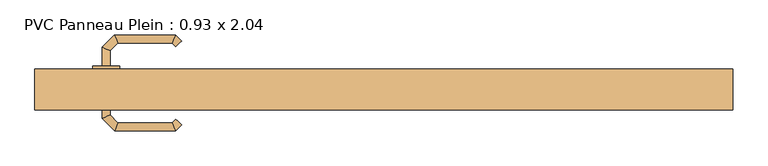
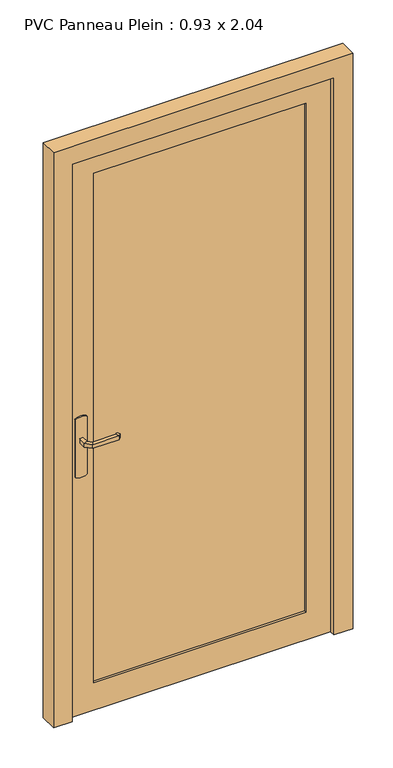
"""IFC4 building model written with IfcOpenShell, lengths in millimetres: door geometry, PVC Panneau Plein : 0.93 x 2.04."""

from ifc_helpers import new_model, si_unit, point, frame, frame_2d, origin, place, context, project, spatial, polyline, circle_curve, ellipse_curve, trimmed, segment, composite_curve, outline, extrude, faceted_brep, source, transform, mapped, element, save
from ifc_brep_helpers import plane_surface, cylinder_surface, advanced_brep


def pvc_panneau_plein_0_93_x_2_04_515509ed(model_context):
    return source(origin(), model_context, "Body", "SolidModel", [
        advanced_brep(
        [(-404.0, 118.7935702, 993.0), (-416.0, 118.7935702, 993.0), (-416.0, 118.7935702, 1007.0), (-404.0, 118.7935702, 1007.0), (-404.0, 96.3083657, 1007.0), (-404.0, 96.3083657, 993.0), (-416.0, 91.337803, 1007.0), (-416.0, 91.337803, 993.0), (-392.5147186, 84.8230843, 1007.0), (-392.5147186, 84.8230843, 993.0), (-397.4852814, 72.8230843, 1007.0), (-397.4852814, 72.8230843, 993.0), (-312.4394977, 84.8230843, 1007.0), (-312.4394977, 84.8230843, 993.0), (-307.468935, 72.8230843, 1007.0), (-307.468935, 72.8230843, 993.0), (-307.1257892, 90.1367928, 993.0), (-307.1257892, 90.1367928, 1007.0), (-298.6405078, 81.6515115, 1007.0), (-298.6405078, 81.6515115, 993.0)],
        [
            (0, 1, circle_curve(frame((-410.0, 118.7935702, 1013.0457722), z_axis=(0.0, 1.0, 0.0), x_axis=(-1.0, 0.0, 0.0)), 20.9244589)),
            (1, 2),
            (2, 3, circle_curve(frame((-410.0, 118.7935702, 986.9542278), z_axis=(0.0, 1.0, 0.0), x_axis=(-1.0, 0.0, 0.0)), 20.9244589)),
            (3, 0),
            (3, 4),
            (4, 5),
            (5, 0),
            (2, 6),
            (6, 4, ellipse_curve(frame((-410.0, 93.8230843, 986.9542278), z_axis=(-0.38268343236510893, 0.9238795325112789, 0.0), x_axis=(0.9238795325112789, 0.3826834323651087, 0.0)), 22.6484711, 20.9244589)),
            (1, 7),
            (7, 6),
            (5, 7, ellipse_curve(frame((-410.0, 93.8230843, 1013.0457722), z_axis=(-0.38268343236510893, 0.9238795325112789, 0.0), x_axis=(0.9238795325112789, 0.3826834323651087, 0.0)), 22.6484711, 20.9244589)),
            (4, 8),
            (8, 9),
            (9, 5),
            (6, 10),
            (10, 8, ellipse_curve(frame((-395.0, 78.8230843, 986.9542278), z_axis=(-0.9238795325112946, 0.38268343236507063, 0.0), x_axis=(0.3826834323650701, 0.9238795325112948, 0.0)), 22.6484711, 20.9244589)),
            (7, 11),
            (11, 10),
            (9, 11, ellipse_curve(frame((-395.0, 78.8230843, 1013.0457722), z_axis=(-0.9238795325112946, 0.38268343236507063, 0.0), x_axis=(0.3826834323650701, 0.9238795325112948, 0.0)), 22.6484711, 20.9244589)),
            (8, 12),
            (12, 13),
            (13, 9),
            (10, 14),
            (14, 12, ellipse_curve(frame((-309.9542163, 78.8230843, 986.9542278), z_axis=(-0.9238795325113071, -0.38268343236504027, 0.0), x_axis=(-0.38268343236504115, 0.9238795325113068, 0.0)), 22.6484711, 20.9244589)),
            (11, 15),
            (15, 14),
            (13, 15, ellipse_curve(frame((-309.9542163, 78.8230843, 1013.0457722), z_axis=(-0.9238795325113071, -0.38268343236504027, 0.0), x_axis=(-0.38268343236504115, 0.9238795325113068, 0.0)), 22.6484711, 20.9244589)),
            (16, 17),
            (17, 18, circle_curve(frame((-302.8831485, 85.8941521, 986.9542278), z_axis=(0.7071067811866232, 0.7071067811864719, 0.0), x_axis=(0.7071067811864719, -0.7071067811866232, 0.0)), 20.9244589)),
            (18, 19),
            (19, 16, circle_curve(frame((-302.8831485, 85.8941521, 1013.0457722), z_axis=(0.7071067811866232, 0.7071067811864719, 0.0), x_axis=(0.7071067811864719, -0.7071067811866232, 0.0)), 20.9244589)),
            (12, 17),
            (16, 13),
            (14, 18),
            (15, 19),
        ],
        [
            plane_surface(frame((-419.2195445, 118.7935702, 1000.0), z_axis=(0.0, 1.0, 0.0), x_axis=(0.0, 0.0, 1.0))),
            plane_surface(frame((-404.0, 118.7935702, 993.0), z_axis=(1.0, 0.0, 0.0), x_axis=(0.0, -1.0, 0.0))),
            cylinder_surface(frame((-410.0, 118.7935702, 986.9542278), z_axis=(0.0, 1.0, 0.0), x_axis=(-1.0, 0.0, 0.0)), 20.9244589),
            plane_surface(frame((-416.0, 118.7935702, 1007.0), z_axis=(-1.0, 0.0, 0.0), x_axis=(0.0, -1.0, 0.0))),
            cylinder_surface(frame((-410.0, 118.7935702, 1013.0457722), z_axis=(0.0, 1.0, 0.0), x_axis=(-1.0, 0.0, 0.0)), 20.9244589),
            plane_surface(frame((-404.0, 96.3083657, 993.0), z_axis=(0.707106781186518, 0.707106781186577, 0.0), x_axis=(0.707106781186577, -0.707106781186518, 0.0))),
            cylinder_surface(frame((-410.0, 93.8230843, 986.9542278), z_axis=(-0.7071067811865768, 0.7071067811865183, 0.0), x_axis=(-0.7071067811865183, -0.7071067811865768, 0.0)), 20.9244589),
            plane_surface(frame((-416.0, 91.337803, 1007.0), z_axis=(-0.7071067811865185, -0.7071067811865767, 0.0), x_axis=(0.7071067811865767, -0.7071067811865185, 0.0))),
            cylinder_surface(frame((-410.0, 93.8230843, 1013.0457722), z_axis=(-0.7071067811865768, 0.7071067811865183, 0.0), x_axis=(-0.7071067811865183, -0.7071067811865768, 0.0)), 20.9244589),
            plane_surface(frame((-392.5147186, 84.8230843, 993.0), z_axis=(0.0, 1.0, 0.0), x_axis=(1.0, 0.0, 0.0))),
            cylinder_surface(frame((-395.0, 78.8230843, 986.9542278), z_axis=(-1.0, 0.0, 0.0), x_axis=(0.0, -1.0, 0.0)), 20.9244589),
            plane_surface(frame((-397.4852814, 72.8230843, 1007.0), z_axis=(0.0, -1.0, 0.0), x_axis=(1.0, 0.0, 0.0))),
            cylinder_surface(frame((-395.0, 78.8230843, 1013.0457722), z_axis=(-1.0, 0.0, 0.0), x_axis=(0.0, -1.0, 0.0)), 20.9244589),
            plane_surface(frame((-302.8831485, 85.8941521, 990.7804555), z_axis=(0.7071067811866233, 0.7071067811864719, 0.0), x_axis=(0.7071067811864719, -0.7071067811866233, 0.0))),
            plane_surface(frame((-312.4394977, 84.8230843, 993.0), z_axis=(-0.707106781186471, 0.7071067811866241, 0.0), x_axis=(0.7071067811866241, 0.707106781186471, 0.0))),
            cylinder_surface(frame((-309.9542163, 78.8230843, 986.9542278), z_axis=(-0.7071067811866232, -0.7071067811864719, 0.0), x_axis=(0.7071067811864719, -0.7071067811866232, 0.0)), 20.9244589),
            plane_surface(frame((-307.468935, 72.8230843, 1007.0), z_axis=(0.7071067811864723, -0.7071067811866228, 0.0), x_axis=(0.7071067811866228, 0.7071067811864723, 0.0))),
            cylinder_surface(frame((-309.9542163, 78.8230843, 1013.0457722), z_axis=(-0.7071067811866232, -0.7071067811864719, 0.0), x_axis=(0.7071067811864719, -0.7071067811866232, 0.0)), 20.9244589),
        ],
        [
            (0, [[1, 2, 3, 4]]),
            (1, [[5, 6, 7, -4]]),
            (2, [[8, 9, -5, -3]]),
            (3, [[10, 11, -8, -2]]),
            (4, [[-7, 12, -10, -1]]),
            (5, [[13, 14, 15, -6]]),
            (6, [[16, 17, -13, -9]]),
            (7, [[18, 19, -16, -11]]),
            (8, [[-15, 20, -18, -12]]),
            (9, [[21, 22, 23, -14]]),
            (10, [[24, 25, -21, -17]]),
            (11, [[26, 27, -24, -19]]),
            (12, [[-23, 28, -26, -20]]),
            (13, [[29, 30, 31, 32]]),
            (14, [[33, -29, 34, -22]]),
            (15, [[35, -30, -33, -25]]),
            (16, [[36, -31, -35, -27]]),
            (17, [[-34, -32, -36, -28]]),
        ],
    ),
        advanced_brep(
        [(-416.0, 168.7935702, 1007.0), (-416.0, 168.7935702, 993.0), (-404.0, 168.7935702, 993.0), (-404.0, 168.7935702, 1007.0), (-404.0, 191.4739582, 1007.0), (-416.0, 196.4445209, 1007.0), (-404.0, 191.4739582, 993.0), (-416.0, 196.4445209, 993.0), (-392.6522273, 202.8217309, 1007.0), (-397.62279, 214.8217309, 1007.0), (-392.6522273, 202.8217309, 993.0), (-397.62279, 214.8217309, 993.0), (-312.4666408, 202.8217309, 1007.0), (-307.496078, 214.8217309, 1007.0), (-312.4666408, 202.8217309, 993.0), (-307.496078, 214.8217309, 993.0), (-298.6676509, 205.9933038, 1007.0), (-307.1529323, 197.5080224, 1007.0), (-307.1529323, 197.5080224, 993.0), (-298.6676509, 205.9933038, 993.0)],
        [
            (0, 1),
            (1, 2, circle_curve(frame((-410.0, 168.7935702, 1013.0457722), z_axis=(0.0, -1.0, 0.0), x_axis=(1.0, 0.0, 0.0)), 20.9244589)),
            (2, 3),
            (3, 0, circle_curve(frame((-410.0, 168.7935702, 986.9542278), z_axis=(0.0, -1.0, 0.0), x_axis=(1.0, 0.0, 0.0)), 20.9244589)),
            (3, 4),
            (4, 5, ellipse_curve(frame((-410.0, 193.9592395, 986.9542278), z_axis=(-0.3826834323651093, -0.9238795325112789, 0.0), x_axis=(0.9238795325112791, -0.38268343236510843, 0.0)), 22.6484711, 20.9244589)),
            (5, 0),
            (2, 6),
            (6, 4),
            (1, 7),
            (7, 6, ellipse_curve(frame((-410.0, 193.9592395, 1013.0457722), z_axis=(-0.3826834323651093, -0.9238795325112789, 0.0), x_axis=(0.9238795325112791, -0.38268343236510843, 0.0)), 22.6484711, 20.9244589)),
            (5, 7),
            (4, 8),
            (8, 9, ellipse_curve(frame((-395.1375086, 208.8217309, 986.9542278), z_axis=(-0.9238795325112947, -0.38268343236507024, 0.0), x_axis=(0.3826834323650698, -0.9238795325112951, 0.0)), 22.6484711, 20.9244589)),
            (9, 5),
            (6, 10),
            (10, 8),
            (7, 11),
            (11, 10, ellipse_curve(frame((-395.1375086, 208.8217309, 1013.0457722), z_axis=(-0.9238795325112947, -0.38268343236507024, 0.0), x_axis=(0.3826834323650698, -0.9238795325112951, 0.0)), 22.6484711, 20.9244589)),
            (9, 11),
            (8, 12),
            (12, 13, ellipse_curve(frame((-309.9813594, 208.8217309, 986.9542278), z_axis=(-0.9238795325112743, 0.3826834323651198, 0.0), x_axis=(-0.38268343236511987, -0.9238795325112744, 0.0)), 22.6484711, 20.9244589)),
            (13, 9),
            (10, 14),
            (14, 12),
            (11, 15),
            (15, 14, ellipse_curve(frame((-309.9813594, 208.8217309, 1013.0457722), z_axis=(-0.9238795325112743, 0.3826834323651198, 0.0), x_axis=(-0.38268343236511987, -0.9238795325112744, 0.0)), 22.6484711, 20.9244589)),
            (13, 15),
            (16, 17, circle_curve(frame((-302.9102916, 201.7506631, 986.9542278), z_axis=(0.7071067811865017, -0.7071067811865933, 0.0), x_axis=(-0.7071067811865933, -0.7071067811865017, 0.0)), 20.9244589)),
            (17, 18),
            (18, 19, circle_curve(frame((-302.9102916, 201.7506631, 1013.0457722), z_axis=(0.7071067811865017, -0.7071067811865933, 0.0), x_axis=(-0.7071067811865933, -0.7071067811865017, 0.0)), 20.9244589)),
            (19, 16),
            (12, 17),
            (16, 13),
            (14, 18),
            (15, 19),
        ],
        [
            plane_surface(frame((-419.2195445, 168.7935702, 1000.0), z_axis=(0.0, -1.0, 0.0), x_axis=(0.0, 0.0, -1.0))),
            cylinder_surface(frame((-410.0, 168.7935702, 986.9542278), z_axis=(0.0, -1.0, 0.0), x_axis=(1.0, 0.0, 0.0)), 20.9244589),
            plane_surface(frame((-404.0, 168.7935702, 1007.0), z_axis=(1.0, 0.0, 0.0), x_axis=(0.0, 1.0, 0.0))),
            cylinder_surface(frame((-410.0, 168.7935702, 1013.0457722), z_axis=(0.0, -1.0, 0.0), x_axis=(1.0, 0.0, 0.0)), 20.9244589),
            plane_surface(frame((-416.0, 168.7935702, 993.0), z_axis=(-1.0, 0.0, 0.0), x_axis=(0.0, 1.0, 0.0))),
            cylinder_surface(frame((-410.0, 193.9592395, 986.9542278), z_axis=(-0.7071067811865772, -0.7071067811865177, 0.0), x_axis=(0.7071067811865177, -0.7071067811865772, 0.0)), 20.9244589),
            plane_surface(frame((-404.0, 191.4739582, 1007.0), z_axis=(0.7071067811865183, -0.7071067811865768, 0.0), x_axis=(0.7071067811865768, 0.7071067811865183, 0.0))),
            cylinder_surface(frame((-410.0, 193.9592395, 1013.0457722), z_axis=(-0.7071067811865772, -0.7071067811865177, 0.0), x_axis=(0.7071067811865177, -0.7071067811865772, 0.0)), 20.9244589),
            plane_surface(frame((-416.0, 196.4445209, 993.0), z_axis=(-0.707106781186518, 0.707106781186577, 0.0), x_axis=(0.707106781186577, 0.707106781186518, 0.0))),
            cylinder_surface(frame((-395.1375086, 208.8217309, 986.9542278), z_axis=(-1.0, 0.0, 0.0), x_axis=(0.0, -1.0, 0.0)), 20.9244589),
            plane_surface(frame((-392.6522273, 202.8217309, 1007.0), z_axis=(0.0, -1.0, 0.0), x_axis=(1.0, 0.0, 0.0))),
            cylinder_surface(frame((-395.1375086, 208.8217309, 1013.0457722), z_axis=(-1.0, 0.0, 0.0), x_axis=(0.0, -1.0, 0.0)), 20.9244589),
            plane_surface(frame((-397.62279, 214.8217309, 993.0), z_axis=(0.0, 1.0, 0.0), x_axis=(1.0, 0.0, 0.0))),
            plane_surface(frame((-302.9102916, 201.7506631, 1009.2195445), z_axis=(0.7071067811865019, -0.7071067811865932, 0.0), x_axis=(0.7071067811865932, 0.7071067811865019, 0.0))),
            cylinder_surface(frame((-309.9813594, 208.8217309, 986.9542278), z_axis=(-0.7071067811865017, 0.7071067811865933, 0.0), x_axis=(-0.7071067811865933, -0.7071067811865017, 0.0)), 20.9244589),
            plane_surface(frame((-312.4666408, 202.8217309, 1007.0), z_axis=(-0.7071067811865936, -0.7071067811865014, 0.0), x_axis=(0.7071067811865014, -0.7071067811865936, 0.0))),
            cylinder_surface(frame((-309.9813594, 208.8217309, 1013.0457722), z_axis=(-0.7071067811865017, 0.7071067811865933, 0.0), x_axis=(-0.7071067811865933, -0.7071067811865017, 0.0)), 20.9244589),
            plane_surface(frame((-307.496078, 214.8217309, 993.0), z_axis=(0.707106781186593, 0.7071067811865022, 0.0), x_axis=(0.7071067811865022, -0.707106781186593, 0.0))),
        ],
        [
            (0, [[1, 2, 3, 4]]),
            (1, [[5, 6, 7, -4]]),
            (2, [[8, 9, -5, -3]]),
            (3, [[10, 11, -8, -2]]),
            (4, [[-7, 12, -10, -1]]),
            (5, [[13, 14, 15, -6]]),
            (6, [[16, 17, -13, -9]]),
            (7, [[18, 19, -16, -11]]),
            (8, [[-15, 20, -18, -12]]),
            (9, [[21, 22, 23, -14]]),
            (10, [[24, 25, -21, -17]]),
            (11, [[26, 27, -24, -19]]),
            (12, [[-23, 28, -26, -20]]),
            (13, [[29, 30, 31, 32]]),
            (14, [[33, -29, 34, -22]]),
            (15, [[35, -30, -33, -25]]),
            (16, [[36, -31, -35, -27]]),
            (17, [[-34, -32, -36, -28]]),
        ],
    ),
        extrude(outline(composite_curve([segment(trimmed(circle_curve(frame_2d((1045.3589838, -410.0)), 40.0), [point((1080.0, -390.0))], [point((1080.0, -430.0))], False, "CARTESIAN"), True, "CONTINUOUS"), segment(polyline([(1080.0, -430.0), (870.0, -430.0)]), True, "CONTINUOUS"), segment(trimmed(circle_curve(frame_2d((904.6410162, -410.0)), 40.0), [point((870.0, -430.0))], [point((870.0, -390.0))], False, "CARTESIAN"), True, "CONTINUOUS"), segment(polyline([(870.0, -390.0), (1080.0, -390.0)]), True, "CONTINUOUS")], self_intersect=False)), frame((0.0, 118.7935702, 0.0), z_axis=(0.0, 1.0, 0.0), x_axis=(0.0, 0.0, 1.0)), (0.0, 0.0, 1.0), 5.0),
        extrude(outline(composite_curve([segment(trimmed(circle_curve(frame_2d((904.6410162, -410.0)), 40.0), [point((870.0, -430.0))], [point((870.0, -390.0))], False, "CARTESIAN"), True, "CONTINUOUS"), segment(polyline([(870.0, -390.0), (1080.0, -390.0)]), True, "CONTINUOUS"), segment(trimmed(circle_curve(frame_2d((1045.3589838, -410.0)), 40.0), [point((1080.0, -390.0))], [point((1080.0, -430.0))], False, "CARTESIAN"), True, "CONTINUOUS"), segment(polyline([(1080.0, -430.0), (870.0, -430.0)]), True, "CONTINUOUS")], self_intersect=False)), frame((0.0, 163.7935702, 0.0), z_axis=(0.0, 1.0, 0.0), x_axis=(0.0, 0.0, 1.0)), (0.0, 0.0, 1.0), 5.0),
        faceted_brep([(-515.0, 163.7935702, 0.0), (-465.0, 163.7935702, 0.0), (-465.0, 123.7935702, 0.0), (-450.0, 123.7935702, 0.0), (-450.0, 103.7935702, 0.0), (-515.0, 103.7935702, 0.0), (-515.0, 103.7935702, 2090.0), (-515.0, 163.7935702, 2090.0), (-450.0, 103.7935702, 2025.0), (450.0, 103.7935702, 2025.0), (450.0, 103.7935702, 0.0), (515.0, 103.7935702, 0.0), (515.0, 103.7935702, 2090.0), (-450.0, 123.7935702, 2025.0), (-465.0, 123.7935702, 2040.0), (465.0, 123.7935702, 2040.0), (465.0, 123.7935702, 0.0), (450.0, 123.7935702, 0.0), (450.0, 123.7935702, 2025.0), (-465.0, 163.7935702, 2040.0), (515.0, 163.7935702, 2090.0), (515.0, 163.7935702, 0.0), (465.0, 163.7935702, 0.0), (465.0, 163.7935702, 2040.0)], [[[0, 1, 2, 3, 4, 5]], [[5, 6, 7, 0]], [[4, 8, 9, 10, 11, 12, 6, 5]], [[3, 13, 8, 4]], [[2, 14, 15, 16, 17, 18, 13, 3]], [[1, 19, 14, 2]], [[0, 7, 20, 21, 22, 23, 19, 1]], [[11, 21, 20, 12]], [[10, 17, 16, 22, 21, 11]], [[9, 18, 17, 10]], [[15, 23, 22, 16]], [[6, 12, 20, 7]], [[8, 13, 18, 9]], [[14, 19, 23, 15]]]),
        faceted_brep([(-465.0, 163.7935702, 2040.0), (465.0, 163.7935702, 2040.0), (465.0, 163.7935702, 0.0), (-465.0, 163.7935702, 0.0), (365.0, 163.7935702, 1950.0), (-365.0, 163.7935702, 1950.0), (-365.0, 163.7935702, 100.0), (365.0, 163.7935702, 100.0), (-465.0, 123.7935702, 2040.0), (-465.0, 123.7935702, 0.0), (465.0, 123.7935702, 0.0), (465.0, 123.7935702, 2040.0), (-365.0, 123.7935702, 1950.0), (365.0, 123.7935702, 1950.0), (365.0, 123.7935702, 100.0), (-365.0, 123.7935702, 100.0), (365.0, 155.7935702, 1950.0), (365.0, 155.7935702, 100.0), (-365.0, 155.7935702, 100.0), (-365.0, 155.7935702, 1950.0), (-365.0, 131.7935702, 1950.0), (-365.0, 131.7935702, 100.0), (365.0, 131.7935702, 100.0), (365.0, 131.7935702, 1950.0)], [[[0, 1, 2, 3], [4, 5, 6, 7]], [[8, 9, 10, 11], [12, 13, 14, 15]], [[3, 9, 8, 0]], [[2, 10, 9, 3]], [[1, 11, 10, 2]], [[0, 8, 11, 1]], [[16, 17, 18, 19]], [[16, 4, 7, 17]], [[17, 7, 6, 18]], [[18, 6, 5, 19]], [[19, 5, 4, 16]], [[20, 21, 22, 23]], [[20, 12, 15, 21]], [[21, 15, 14, 22]], [[22, 14, 13, 23]], [[23, 13, 12, 20]]]),
    ])


if __name__ == "__main__":
    model = new_model("IFC4")
    model_context = context("Model", 3, world=origin())
    ifc_project = project(units=[si_unit("LENGTHUNIT", "METRE", prefix="MILLI")], contexts=[model_context])
    site = spatial("IfcSite", under=ifc_project)
    building = spatial("IfcBuilding", under=site)
    placement = place(None, origin())
    pvc_panneau_plein_0_93_x_2_04_shape = pvc_panneau_plein_0_93_x_2_04_515509ed(model_context)
    element("IfcDoor", 1, ObjectType="PVC Panneau Plein : 0.93 x 2.04", at=placement, inside=building, context=model_context, shape_type="MappedRepresentation", body=[
        mapped(pvc_panneau_plein_0_93_x_2_04_shape, transform((0.0, 0.0, 0.0), x_axis=(1.0, 0.0, 0.0), y_axis=(0.0, 1.0, 0.0), z_axis=(0.0, 0.0, 1.0))),
    ])
    save(model, "model.ifc")
